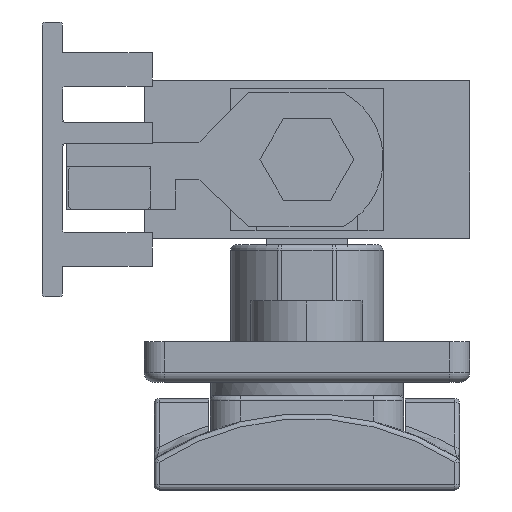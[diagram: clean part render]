
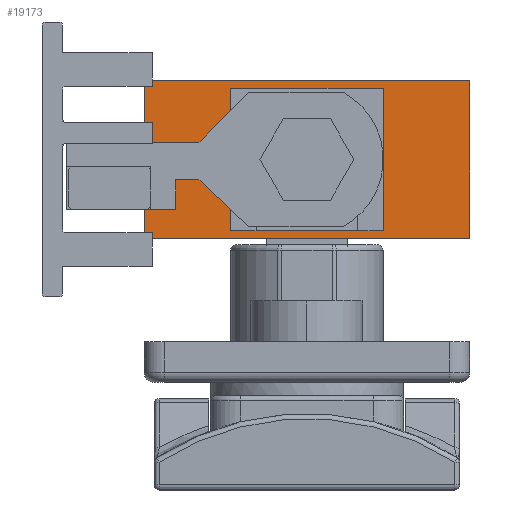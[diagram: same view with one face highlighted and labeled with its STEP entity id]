
A CAD part, front view. The second image highlights one B-rep face of the part: STEP entity #19173.
In plain terms, the highlighted planar face has unit normal (0, -1, 0).
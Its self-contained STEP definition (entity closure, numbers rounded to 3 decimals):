
#31 = VECTOR ( 'NONE', #10108, 1000. ) ;
#42 = EDGE_LOOP ( 'NONE', ( #8928, #2987, #1177, #15581 ) ) ;
#193 = CARTESIAN_POINT ( 'NONE',  ( 7., -72.75, 6.25 ) ) ;
#649 = ORIENTED_EDGE ( 'NONE', *, *, #5888, .F. ) ;
#845 = EDGE_CURVE ( 'NONE', #7167, #9553, #10936, .T. ) ;
#1174 = DIRECTION ( 'NONE',  ( 0., 0., 1. ) ) ;
#1177 = ORIENTED_EDGE ( 'NONE', *, *, #5604, .F. ) ;
#1241 = CARTESIAN_POINT ( 'NONE',  ( -16., -72.75, 7.75 ) ) ;
#1462 = CARTESIAN_POINT ( 'NONE',  ( -16., -72.75, 7.75 ) ) ;
#1526 = CARTESIAN_POINT ( 'NONE',  ( 7., -72.75, 6.25 ) ) ;
#2026 = AXIS2_PLACEMENT_3D ( 'NONE', #3942, #9959, #1174 ) ;
#2110 = VERTEX_POINT ( 'NONE', #13380 ) ;
#2313 = CARTESIAN_POINT ( 'NONE',  ( 16., -72.75, 7.75 ) ) ;
#2618 = CARTESIAN_POINT ( 'NONE',  ( -7., -72.75, 6.25 ) ) ;
#2650 = FACE_BOUND ( 'NONE', #18043, .T. ) ;
#2938 = DIRECTION ( 'NONE',  ( 0., 0., -1. ) ) ;
#2987 = ORIENTED_EDGE ( 'NONE', *, *, #7188, .F. ) ;
#3942 = CARTESIAN_POINT ( 'NONE',  ( -16., -72.75, 7.75 ) ) ;
#4155 = LINE ( 'NONE', #5522, #6935 ) ;
#5229 = VERTEX_POINT ( 'NONE', #6169 ) ;
#5522 = CARTESIAN_POINT ( 'NONE',  ( 16., -72.75, 7.75 ) ) ;
#5604 = EDGE_CURVE ( 'NONE', #5229, #12706, #7133, .T. ) ;
#5888 = EDGE_CURVE ( 'NONE', #19246, #10910, #17539, .T. ) ;
#6169 = CARTESIAN_POINT ( 'NONE',  ( -16., -72.75, 7.75 ) ) ;
#6263 = DIRECTION ( 'NONE',  ( 0., 0., -1. ) ) ;
#6369 = LINE ( 'NONE', #1462, #9021 ) ;
#6922 = CARTESIAN_POINT ( 'NONE',  ( 7., -72.75, 6.25 ) ) ;
#6935 = VECTOR ( 'NONE', #11561, 1000. ) ;
#7059 = CARTESIAN_POINT ( 'NONE',  ( -7., -72.75, -6.25 ) ) ;
#7133 = LINE ( 'NONE', #1241, #15124 ) ;
#7167 = VERTEX_POINT ( 'NONE', #16387 ) ;
#7188 = EDGE_CURVE ( 'NONE', #12706, #2110, #4155, .T. ) ;
#7518 = DIRECTION ( 'NONE',  ( 0., 0., 1. ) ) ;
#8672 = PLANE ( 'NONE',  #2026 ) ;
#8928 = ORIENTED_EDGE ( 'NONE', *, *, #9722, .T. ) ;
#9021 = VECTOR ( 'NONE', #6263, 1000. ) ;
#9156 = EDGE_CURVE ( 'NONE', #10910, #7167, #16470, .T. ) ;
#9273 = EDGE_CURVE ( 'NONE', #5229, #15496, #6369, .T. ) ;
#9553 = VERTEX_POINT ( 'NONE', #10130 ) ;
#9722 = EDGE_CURVE ( 'NONE', #15496, #2110, #16109, .T. ) ;
#9959 = DIRECTION ( 'NONE',  ( 0., 1., 0. ) ) ;
#10108 = DIRECTION ( 'NONE',  ( -1., 0., 0. ) ) ;
#10130 = CARTESIAN_POINT ( 'NONE',  ( 7., -72.75, -6.25 ) ) ;
#10910 = VERTEX_POINT ( 'NONE', #2618 ) ;
#10936 = LINE ( 'NONE', #16965, #17866 ) ;
#11392 = ORIENTED_EDGE ( 'NONE', *, *, #15178, .F. ) ;
#11456 = FACE_OUTER_BOUND ( 'NONE', #42, .T. ) ;
#11482 = DIRECTION ( 'NONE',  ( 1., 0., 0. ) ) ;
#11561 = DIRECTION ( 'NONE',  ( 0., 0., -1. ) ) ;
#11718 = DIRECTION ( 'NONE',  ( 1., 0., 0. ) ) ;
#11798 = ORIENTED_EDGE ( 'NONE', *, *, #845, .F. ) ;
#12706 = VERTEX_POINT ( 'NONE', #2313 ) ;
#13380 = CARTESIAN_POINT ( 'NONE',  ( 16., -72.75, -7.75 ) ) ;
#14522 = VECTOR ( 'NONE', #7518, 1000. ) ;
#14542 = CARTESIAN_POINT ( 'NONE',  ( -16., -72.75, -7.75 ) ) ;
#14618 = ORIENTED_EDGE ( 'NONE', *, *, #9156, .F. ) ;
#14628 = VECTOR ( 'NONE', #2938, 1000. ) ;
#15055 = LINE ( 'NONE', #1526, #14522 ) ;
#15124 = VECTOR ( 'NONE', #11718, 1000. ) ;
#15178 = EDGE_CURVE ( 'NONE', #9553, #19246, #15055, .T. ) ;
#15471 = DIRECTION ( 'NONE',  ( 1., 0., 0. ) ) ;
#15496 = VERTEX_POINT ( 'NONE', #19285 ) ;
#15581 = ORIENTED_EDGE ( 'NONE', *, *, #9273, .T. ) ;
#16109 = LINE ( 'NONE', #14542, #18443 ) ;
#16387 = CARTESIAN_POINT ( 'NONE',  ( -7., -72.75, -6.25 ) ) ;
#16470 = LINE ( 'NONE', #7059, #14628 ) ;
#16965 = CARTESIAN_POINT ( 'NONE',  ( -7., -72.75, -6.25 ) ) ;
#17539 = LINE ( 'NONE', #6922, #31 ) ;
#17866 = VECTOR ( 'NONE', #15471, 1000. ) ;
#18043 = EDGE_LOOP ( 'NONE', ( #14618, #649, #11392, #11798 ) ) ;
#18443 = VECTOR ( 'NONE', #11482, 1000. ) ;
#19173 = ADVANCED_FACE ( 'NONE', ( #2650, #11456 ), #8672, .F. ) ;
#19246 = VERTEX_POINT ( 'NONE', #193 ) ;
#19285 = CARTESIAN_POINT ( 'NONE',  ( -16., -72.75, -7.75 ) ) ;
